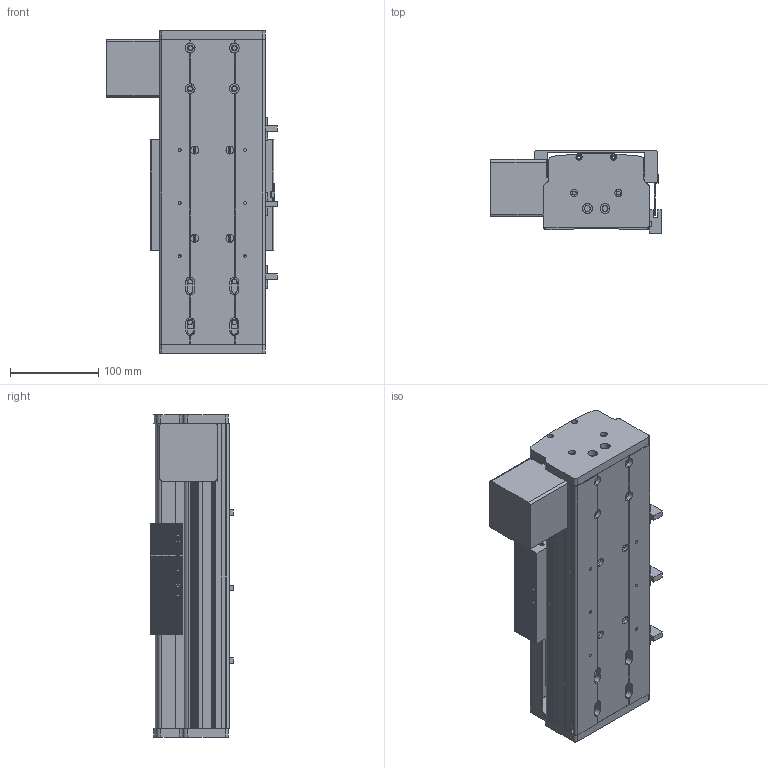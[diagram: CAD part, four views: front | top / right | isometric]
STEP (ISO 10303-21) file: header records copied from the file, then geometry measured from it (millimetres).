
FILE_DESCRIPTION (( 'STEP AP214' ), '1' );
FILE_NAME ('CF120B-D-50-FWL.STEP', '2020-01-15T07:21:02', ( '微软用户' ), ( '微软中国' ), 'SwSTEP 2.0', 'SolidWorks 2016', '' );
FILE_SCHEMA (( 'AUTOMOTIVE_DESIGN' ));
Length unit declared in the file: millimetre
Products named in the file (14): 6060-3232源臏奪-翋雄釱; CF120B耜啣萇儂傷; CF120B耜啣; CF120B裔啣-50; CF120B賑雄啣; CF120-B賑雄輸; EGR15絳寢-50; EGH-15-CABZnew; CF120B臏倰第-50; CF120B-D-50-FWL; 嫖萇羲壽; 75-86-95癹弇羲壽覜茼え; 6060-3232源臏奪-植雄釱; 6060-3232源臏奪-萇儂釱
Assembly tree (19 placements, depth 2):
  CF120B-D-50-FWL
    CF120B臏倰第-50
    EGH-15-CABZnew  x4
    EGR15絳寢-50  x2
    CF120-B賑雄輸
    CF120B賑雄啣
    CF120B裔啣-50
    CF120B耜啣
    CF120B耜啣萇儂傷
    6060-3232源臏奪-翋雄釱
    6060-3232源臏奪-萇儂釱
    6060-3232源臏奪-植雄釱
    75-86-95癹弇羲壽覜茼え
    嫖萇羲壽  x3
Bounding box: 193.1 x 93.85 x 365 mm (x, y, z)
Volume: 2512259.3 mm3; surface area: 748727.7 mm2
Topology: 15 solids, 67 shells, 7219 faces, 27396 edges, 18864 vertices
Faces by surface type: plane 3582, bspline 2348, cylinder 937, cone 128, torus 128, sphere 96
Entity records: 128795 total; most frequent: CARTESIAN_POINT 41668, ORIENTED_EDGE 15138, DIRECTION 11876, EDGE_CURVE 8693, VERTEX_POINT 5953, VECTOR 5182, LINE 5182, AXIS2_PLACEMENT_3D 3347
